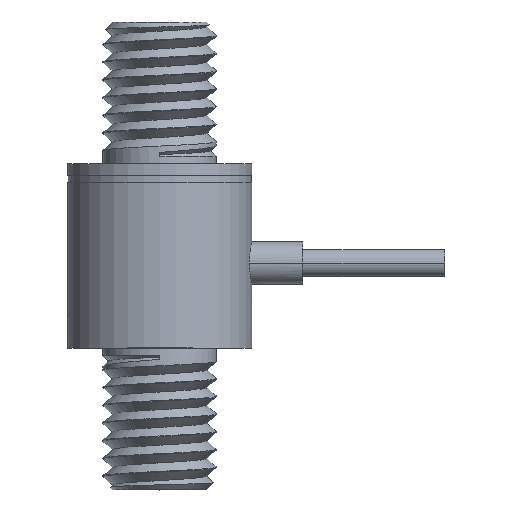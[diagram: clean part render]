
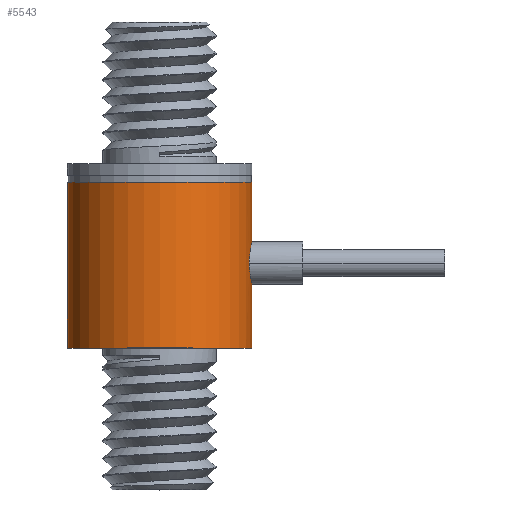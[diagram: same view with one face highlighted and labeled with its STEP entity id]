
A CAD part, top view. The second image highlights one B-rep face of the part: STEP entity #5543.
In plain terms, the highlighted cylindrical face has radius 6.5 mm (diameter 13 mm), a partial arc.
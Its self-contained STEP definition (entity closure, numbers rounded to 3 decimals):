
#171 = EDGE_LOOP ( 'NONE', ( #2997, #7357, #2023, #4703, #1561, #7116, #620 ) ) ;
#181 = CARTESIAN_POINT ( 'NONE',  ( 6.424, -1.629, 0.992 ) ) ;
#182 = VERTEX_POINT ( 'NONE', #1058 ) ;
#188 = CARTESIAN_POINT ( 'NONE',  ( 0., 16.5, 0. ) ) ;
#486 = EDGE_CURVE ( 'NONE', #5212, #3490, #5974, .T. ) ;
#620 = ORIENTED_EDGE ( 'NONE', *, *, #2893, .F. ) ;
#643 = DIRECTION ( 'NONE',  ( 0., 1., 0. ) ) ;
#690 = DIRECTION ( 'NONE',  ( -1., 0., 0. ) ) ;
#799 = CARTESIAN_POINT ( 'NONE',  ( 6.457, -1.801, 0.753 ) ) ;
#903 = CARTESIAN_POINT ( 'NONE',  ( 6.325, -0.402, 1.5 ) ) ;
#921 = VECTOR ( 'NONE', #4253, 1000. ) ;
#943 = CARTESIAN_POINT ( 'NONE',  ( 6.5, 1., 0.098 ) ) ;
#1013 = CARTESIAN_POINT ( 'NONE',  ( 6.489, 0.952, 0.391 ) ) ;
#1045 = CIRCLE ( 'NONE', #2645, 6.5 ) ;
#1058 = CARTESIAN_POINT ( 'NONE',  ( 6.5, 5.2, 0. ) ) ;
#1219 = CARTESIAN_POINT ( 'NONE',  ( 6.5, -2., 0.198 ) ) ;
#1286 = EDGE_CURVE ( 'NONE', #2125, #182, #6227, .T. ) ;
#1296 = CARTESIAN_POINT ( 'NONE',  ( 6.325, -0.696, 1.5 ) ) ;
#1303 = DIRECTION ( 'NONE',  ( -1., 0., 0. ) ) ;
#1342 = FACE_OUTER_BOUND ( 'NONE', #171, .T. ) ;
#1367 = LINE ( 'NONE', #5360, #921 ) ;
#1413 = CYLINDRICAL_SURFACE ( 'NONE', #3621, 6.5 ) ;
#1547 = CARTESIAN_POINT ( 'NONE',  ( 6.327, -0.302, 1.49 ) ) ;
#1561 = ORIENTED_EDGE ( 'NONE', *, *, #1286, .T. ) ;
#1792 = CARTESIAN_POINT ( 'NONE',  ( 6.491, -1.961, 0.393 ) ) ;
#2000 = CARTESIAN_POINT ( 'NONE',  ( 0., -6.5, 0. ) ) ;
#2020 = VECTOR ( 'NONE', #2051, 1000. ) ;
#2023 = ORIENTED_EDGE ( 'NONE', *, *, #7112, .F. ) ;
#2051 = DIRECTION ( 'NONE',  ( 0., 1., 0. ) ) ;
#2057 = CARTESIAN_POINT ( 'NONE',  ( 6.325, -0.5, 1.5 ) ) ;
#2125 = VERTEX_POINT ( 'NONE', #6552 ) ;
#2201 = CARTESIAN_POINT ( 'NONE',  ( 6.336, -0.109, 1.452 ) ) ;
#2315 = VERTEX_POINT ( 'NONE', #2911 ) ;
#2387 = AXIS2_PLACEMENT_3D ( 'NONE', #2908, #4058, #6885 ) ;
#2464 = CARTESIAN_POINT ( 'NONE',  ( 6.5, -2., 0. ) ) ;
#2484 = CARTESIAN_POINT ( 'NONE',  ( 6.5, 16.5, 0. ) ) ;
#2558 = CARTESIAN_POINT ( 'NONE',  ( 6.39, -1.416, 1.192 ) ) ;
#2645 = AXIS2_PLACEMENT_3D ( 'NONE', #2000, #643, #690 ) ;
#2663 = CARTESIAN_POINT ( 'NONE',  ( 6.483, 0.923, 0.484 ) ) ;
#2754 = CIRCLE ( 'NONE', #2387, 6.5 ) ;
#2849 = CARTESIAN_POINT ( 'NONE',  ( -6.5, 5.2, 0. ) ) ;
#2893 = EDGE_CURVE ( 'NONE', #5864, #7395, #1367, .T. ) ;
#2908 = CARTESIAN_POINT ( 'NONE',  ( 0., 5.2, 0. ) ) ;
#2911 = CARTESIAN_POINT ( 'NONE',  ( 6.325, -0.5, 1.5 ) ) ;
#2997 = ORIENTED_EDGE ( 'NONE', *, *, #6855, .T. ) ;
#3102 = CARTESIAN_POINT ( 'NONE',  ( 6.334, -0.894, 1.46 ) ) ;
#3119 = VECTOR ( 'NONE', #4255, 1000. ) ;
#3141 = CARTESIAN_POINT ( 'NONE',  ( 6.466, -1.847, 0.667 ) ) ;
#3207 = CARTESIAN_POINT ( 'NONE',  ( 6.342, -0.016, 1.423 ) ) ;
#3316 = CARTESIAN_POINT ( 'NONE',  ( 6.401, 0.491, 1.131 ) ) ;
#3352 = CARTESIAN_POINT ( 'NONE',  ( 6.39, 0.415, 1.192 ) ) ;
#3490 = VERTEX_POINT ( 'NONE', #2464 ) ;
#3595 = CARTESIAN_POINT ( 'NONE',  ( 6.5, -2., 0. ) ) ;
#3613 = B_SPLINE_CURVE_WITH_KNOTS ( 'NONE', 3,
 ( #7201, #1296, #3102, #7042, #6623, #2558, #4793, #181, #3716, #799, #3141, #1792, #1219, #3595 ),
 .UNSPECIFIED., .F., .F.,
 ( 4, 2, 2, 2, 2, 2, 4 ),
 ( 0.005, 0.005, 0.006, 0.006, 0.006, 0.006, 0.007 ),
 .UNSPECIFIED. ) ;
#3621 = AXIS2_PLACEMENT_3D ( 'NONE', #188, #5409, #1303 ) ;
#3716 = CARTESIAN_POINT ( 'NONE',  ( 6.436, -1.693, 0.915 ) ) ;
#3856 = EDGE_CURVE ( 'NONE', #7395, #182, #2754, .T. ) ;
#3886 = B_SPLINE_CURVE_WITH_KNOTS ( 'NONE', 3,
 ( #3967, #943, #6837, #1013, #2663, #7345, #3895, #3316, #3352, #5614, #4396, #3207, #2201, #1547, #903, #2057 ),
 .UNSPECIFIED., .F., .F.,
 ( 4, 2, 2, 2, 2, 2, 2, 4 ),
 ( 0.002, 0.003, 0.003, 0.004, 0.004, 0.004, 0.004, 0.005 ),
 .UNSPECIFIED. ) ;
#3895 = CARTESIAN_POINT ( 'NONE',  ( 6.436, 0.699, 0.922 ) ) ;
#3917 = CARTESIAN_POINT ( 'NONE',  ( 6.5, -6.5, 0. ) ) ;
#3967 = CARTESIAN_POINT ( 'NONE',  ( 6.5, 1., 0. ) ) ;
#4058 = DIRECTION ( 'NONE',  ( 0., 1., 0. ) ) ;
#4253 = DIRECTION ( 'NONE',  ( 0., 1., 0. ) ) ;
#4255 = DIRECTION ( 'NONE',  ( 0., 1., 0. ) ) ;
#4396 = CARTESIAN_POINT ( 'NONE',  ( 6.359, 0.165, 1.348 ) ) ;
#4703 = ORIENTED_EDGE ( 'NONE', *, *, #6293, .F. ) ;
#4793 = CARTESIAN_POINT ( 'NONE',  ( 6.401, -1.491, 1.13 ) ) ;
#5212 = VERTEX_POINT ( 'NONE', #3917 ) ;
#5360 = CARTESIAN_POINT ( 'NONE',  ( -6.5, 16.5, 0. ) ) ;
#5409 = DIRECTION ( 'NONE',  ( 0., 1., 0. ) ) ;
#5543 = ADVANCED_FACE ( 'NONE', ( #1342 ), #1413, .T. ) ;
#5614 = CARTESIAN_POINT ( 'NONE',  ( 6.369, 0.253, 1.301 ) ) ;
#5806 = CARTESIAN_POINT ( 'NONE',  ( -6.5, -6.5, 0. ) ) ;
#5864 = VERTEX_POINT ( 'NONE', #5806 ) ;
#5974 = LINE ( 'NONE', #2484, #3119 ) ;
#6191 = CARTESIAN_POINT ( 'NONE',  ( 6.5, 16.5, 0. ) ) ;
#6227 = LINE ( 'NONE', #6191, #2020 ) ;
#6293 = EDGE_CURVE ( 'NONE', #2125, #2315, #3886, .T. ) ;
#6552 = CARTESIAN_POINT ( 'NONE',  ( 6.5, 1., 0. ) ) ;
#6623 = CARTESIAN_POINT ( 'NONE',  ( 6.369, -1.253, 1.301 ) ) ;
#6837 = CARTESIAN_POINT ( 'NONE',  ( 6.498, 0.99, 0.198 ) ) ;
#6855 = EDGE_CURVE ( 'NONE', #5864, #5212, #1045, .T. ) ;
#6885 = DIRECTION ( 'NONE',  ( -1., 0., 0. ) ) ;
#7042 = CARTESIAN_POINT ( 'NONE',  ( 6.359, -1.165, 1.348 ) ) ;
#7112 = EDGE_CURVE ( 'NONE', #2315, #3490, #3613, .T. ) ;
#7116 = ORIENTED_EDGE ( 'NONE', *, *, #3856, .F. ) ;
#7201 = CARTESIAN_POINT ( 'NONE',  ( 6.325, -0.5, 1.5 ) ) ;
#7345 = CARTESIAN_POINT ( 'NONE',  ( 6.458, 0.81, 0.757 ) ) ;
#7357 = ORIENTED_EDGE ( 'NONE', *, *, #486, .T. ) ;
#7395 = VERTEX_POINT ( 'NONE', #2849 ) ;
